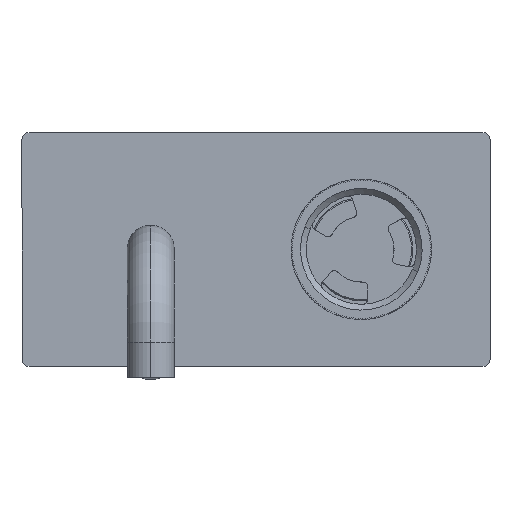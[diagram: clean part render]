
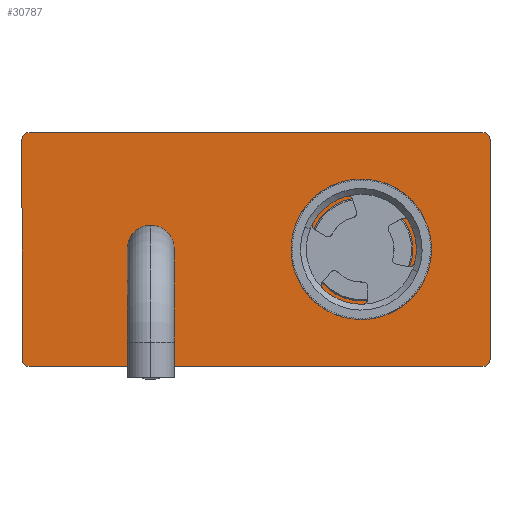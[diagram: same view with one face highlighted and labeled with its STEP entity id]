
A CAD part, top view. The second image highlights one B-rep face of the part: STEP entity #30787.
In plain terms, the highlighted planar face has unit normal (0, 0, 1).
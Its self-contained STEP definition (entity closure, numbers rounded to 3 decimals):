
#489 = EDGE_CURVE ( 'NONE', #1590, #42807, #36707, .T. ) ;
#492 = EDGE_CURVE ( 'NONE', #49050, #34137, #16543, .T. ) ;
#766 = ORIENTED_EDGE ( 'NONE', *, *, #42951, .T. ) ;
#1443 = EDGE_CURVE ( 'NONE', #37461, #19615, #56050, .T. ) ;
#1590 = VERTEX_POINT ( 'NONE', #14358 ) ;
#1798 = LINE ( 'NONE', #19307, #22795 ) ;
#1964 = LINE ( 'NONE', #33793, #10885 ) ;
#2246 = ORIENTED_EDGE ( 'NONE', *, *, #1443, .T. ) ;
#3052 = LINE ( 'NONE', #54975, #48079 ) ;
#4282 = AXIS2_PLACEMENT_3D ( 'NONE', #54527, #45355, #10357 ) ;
#4470 = CARTESIAN_POINT ( 'NONE',  ( -100., -50., 2. ) ) ;
#5309 = VERTEX_POINT ( 'NONE', #47952 ) ;
#5885 = DIRECTION ( 'NONE',  ( 0., 0., 1. ) ) ;
#6035 = DIRECTION ( 'NONE',  ( 1., 0., 0. ) ) ;
#6121 = CIRCLE ( 'NONE', #4282, 20.7 ) ;
#6732 = AXIS2_PLACEMENT_3D ( 'NONE', #38823, #25365, #38547 ) ;
#7058 = AXIS2_PLACEMENT_3D ( 'NONE', #14917, #41331, #6035 ) ;
#7158 = VECTOR ( 'NONE', #35457, 1000. ) ;
#7440 = ORIENTED_EDGE ( 'NONE', *, *, #20034, .T. ) ;
#7879 = ORIENTED_EDGE ( 'NONE', *, *, #45180, .T. ) ;
#7886 = AXIS2_PLACEMENT_3D ( 'NONE', #9266, #8985, #48276 ) ;
#8985 = DIRECTION ( 'NONE',  ( 0., 0., 1. ) ) ;
#9266 = CARTESIAN_POINT ( 'NONE',  ( 0., 0., 2. ) ) ;
#9496 = CARTESIAN_POINT ( 'NONE',  ( -45., 0., 2. ) ) ;
#9697 = ORIENTED_EDGE ( 'NONE', *, *, #38773, .F. ) ;
#10072 = DIRECTION ( 'NONE',  ( 0., 0., 1. ) ) ;
#10357 = DIRECTION ( 'NONE',  ( 1., 0., 0. ) ) ;
#10885 = VECTOR ( 'NONE', #24618, 1000. ) ;
#11375 = DIRECTION ( 'NONE',  ( -1., 0., 0. ) ) ;
#13015 = DIRECTION ( 'NONE',  ( 1., 0., 0. ) ) ;
#13288 = FACE_BOUND ( 'NONE', #51582, .T. ) ;
#13776 = CARTESIAN_POINT ( 'NONE',  ( 24.3, 0., 2. ) ) ;
#13849 = FACE_OUTER_BOUND ( 'NONE', #21368, .T. ) ;
#14358 = CARTESIAN_POINT ( 'NONE',  ( -53.5, 0., 2. ) ) ;
#14917 = CARTESIAN_POINT ( 'NONE',  ( 97., 47., 2. ) ) ;
#16543 = CIRCLE ( 'NONE', #38540, 20.7 ) ;
#18027 = CARTESIAN_POINT ( 'NONE',  ( 65.7, 0., 2. ) ) ;
#18804 = CARTESIAN_POINT ( 'NONE',  ( -45., 0., 2. ) ) ;
#19307 = CARTESIAN_POINT ( 'NONE',  ( 100., -50., 2. ) ) ;
#19615 = VERTEX_POINT ( 'NONE', #50758 ) ;
#20034 = EDGE_CURVE ( 'NONE', #38139, #21097, #1964, .T. ) ;
#20723 = CARTESIAN_POINT ( 'NONE',  ( -97., -47., 2. ) ) ;
#21097 = VERTEX_POINT ( 'NONE', #30501 ) ;
#21292 = VERTEX_POINT ( 'NONE', #33911 ) ;
#21368 = EDGE_LOOP ( 'NONE', ( #21471, #24584, #766, #2246, #7879, #44784, #7440, #30265 ) ) ;
#21471 = ORIENTED_EDGE ( 'NONE', *, *, #34294, .T. ) ;
#21578 = DIRECTION ( 'NONE',  ( 0., 0., 1. ) ) ;
#22039 = CARTESIAN_POINT ( 'NONE',  ( 100., -47., 2. ) ) ;
#22795 = VECTOR ( 'NONE', #36799, 1000. ) ;
#23694 = DIRECTION ( 'NONE',  ( 1., 0., 0. ) ) ;
#23846 = VERTEX_POINT ( 'NONE', #48916 ) ;
#24584 = ORIENTED_EDGE ( 'NONE', *, *, #28404, .T. ) ;
#24618 = DIRECTION ( 'NONE',  ( 0., 1., 0. ) ) ;
#25365 = DIRECTION ( 'NONE',  ( 0., 0., 1. ) ) ;
#28404 = EDGE_CURVE ( 'NONE', #5309, #23846, #45158, .T. ) ;
#29905 = CIRCLE ( 'NONE', #46383, 8.5 ) ;
#30265 = ORIENTED_EDGE ( 'NONE', *, *, #35716, .T. ) ;
#30501 = CARTESIAN_POINT ( 'NONE',  ( 100., 47., 2. ) ) ;
#30787 = ADVANCED_FACE ( 'NONE', ( #13288, #13849, #30800 ), #31365, .T. ) ;
#30800 = FACE_BOUND ( 'NONE', #56225, .T. ) ;
#31342 = DIRECTION ( 'NONE',  ( 1., 0., 0. ) ) ;
#31365 = PLANE ( 'NONE',  #7886 ) ;
#32975 = AXIS2_PLACEMENT_3D ( 'NONE', #48575, #52322, #13015 ) ;
#33793 = CARTESIAN_POINT ( 'NONE',  ( 100., -50., 2. ) ) ;
#33911 = CARTESIAN_POINT ( 'NONE',  ( 97., 50., 2. ) ) ;
#34137 = VERTEX_POINT ( 'NONE', #18027 ) ;
#34294 = EDGE_CURVE ( 'NONE', #21292, #5309, #3052, .T. ) ;
#35457 = DIRECTION ( 'NONE',  ( 0., -1., 0. ) ) ;
#35716 = EDGE_CURVE ( 'NONE', #21097, #21292, #39131, .T. ) ;
#36707 = CIRCLE ( 'NONE', #41290, 8.5 ) ;
#36799 = DIRECTION ( 'NONE',  ( 1., 0., 0. ) ) ;
#37153 = CARTESIAN_POINT ( 'NONE',  ( 45., 0., 2. ) ) ;
#37461 = VERTEX_POINT ( 'NONE', #40496 ) ;
#38139 = VERTEX_POINT ( 'NONE', #22039 ) ;
#38540 = AXIS2_PLACEMENT_3D ( 'NONE', #37153, #54633, #23694 ) ;
#38547 = DIRECTION ( 'NONE',  ( 1., 0., 0. ) ) ;
#38773 = EDGE_CURVE ( 'NONE', #34137, #49050, #6121, .T. ) ;
#38823 = CARTESIAN_POINT ( 'NONE',  ( -97., 47., 2. ) ) ;
#39131 = CIRCLE ( 'NONE', #7058, 3. ) ;
#40138 = ORIENTED_EDGE ( 'NONE', *, *, #489, .F. ) ;
#40496 = CARTESIAN_POINT ( 'NONE',  ( -100., -47., 2. ) ) ;
#41290 = AXIS2_PLACEMENT_3D ( 'NONE', #18804, #5885, #54345 ) ;
#41331 = DIRECTION ( 'NONE',  ( 0., 0., 1. ) ) ;
#41414 = AXIS2_PLACEMENT_3D ( 'NONE', #20723, #21578, #55410 ) ;
#42807 = VERTEX_POINT ( 'NONE', #47196 ) ;
#42951 = EDGE_CURVE ( 'NONE', #23846, #37461, #44876, .T. ) ;
#44784 = ORIENTED_EDGE ( 'NONE', *, *, #45001, .T. ) ;
#44876 = LINE ( 'NONE', #4470, #7158 ) ;
#45001 = EDGE_CURVE ( 'NONE', #54494, #38139, #53142, .T. ) ;
#45158 = CIRCLE ( 'NONE', #6732, 3. ) ;
#45180 = EDGE_CURVE ( 'NONE', #19615, #54494, #1798, .T. ) ;
#45355 = DIRECTION ( 'NONE',  ( 0., 0., 1. ) ) ;
#46383 = AXIS2_PLACEMENT_3D ( 'NONE', #9496, #10072, #31342 ) ;
#47196 = CARTESIAN_POINT ( 'NONE',  ( -36.5, 0., 2. ) ) ;
#47952 = CARTESIAN_POINT ( 'NONE',  ( -97., 50., 2. ) ) ;
#48079 = VECTOR ( 'NONE', #11375, 1000. ) ;
#48276 = DIRECTION ( 'NONE',  ( 1., 0., 0. ) ) ;
#48483 = EDGE_CURVE ( 'NONE', #42807, #1590, #29905, .T. ) ;
#48575 = CARTESIAN_POINT ( 'NONE',  ( 97., -47., 2. ) ) ;
#48916 = CARTESIAN_POINT ( 'NONE',  ( -100., 47., 2. ) ) ;
#49050 = VERTEX_POINT ( 'NONE', #13776 ) ;
#50758 = CARTESIAN_POINT ( 'NONE',  ( -97., -50., 2. ) ) ;
#51582 = EDGE_LOOP ( 'NONE', ( #55400, #9697 ) ) ;
#52322 = DIRECTION ( 'NONE',  ( 0., 0., 1. ) ) ;
#53002 = ORIENTED_EDGE ( 'NONE', *, *, #48483, .F. ) ;
#53142 = CIRCLE ( 'NONE', #32975, 3. ) ;
#54345 = DIRECTION ( 'NONE',  ( 1., 0., 0. ) ) ;
#54494 = VERTEX_POINT ( 'NONE', #55257 ) ;
#54527 = CARTESIAN_POINT ( 'NONE',  ( 45., 0., 2. ) ) ;
#54633 = DIRECTION ( 'NONE',  ( 0., 0., 1. ) ) ;
#54975 = CARTESIAN_POINT ( 'NONE',  ( 100., 50., 2. ) ) ;
#55257 = CARTESIAN_POINT ( 'NONE',  ( 97., -50., 2. ) ) ;
#55400 = ORIENTED_EDGE ( 'NONE', *, *, #492, .F. ) ;
#55410 = DIRECTION ( 'NONE',  ( 1., 0., 0. ) ) ;
#56050 = CIRCLE ( 'NONE', #41414, 3. ) ;
#56225 = EDGE_LOOP ( 'NONE', ( #40138, #53002 ) ) ;
